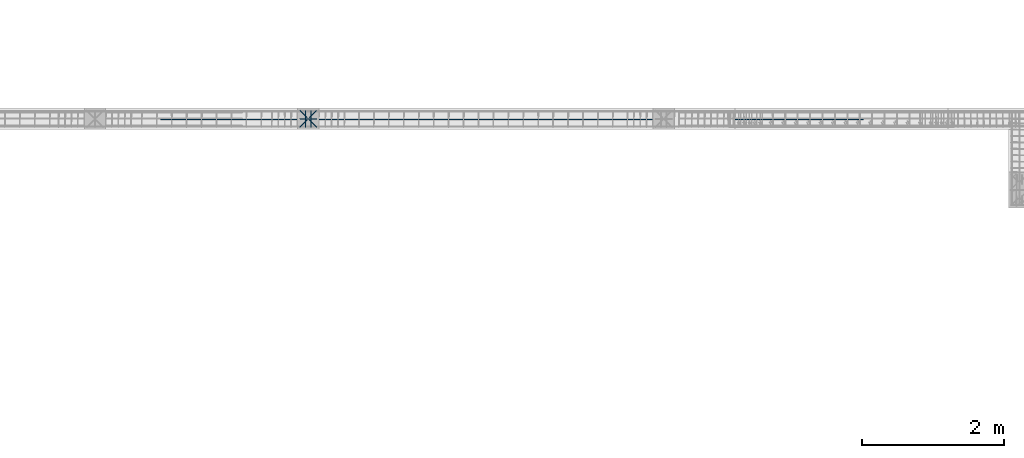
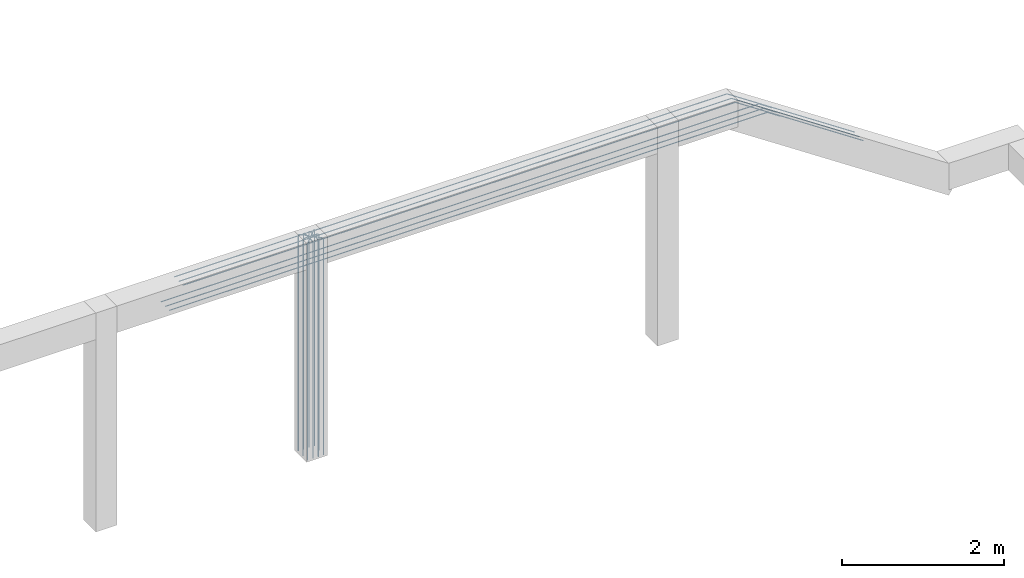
# One storey, part 13 of 24: 3 reinforcing bars.
"""IFC2X3 building model written with IfcOpenShell, lengths in metres."""

from ifc_helpers import new_model, entity, si_unit, direction, frame, origin, place, context, subcontext, project, spatial, shape, source, transform, mapped, element, save


model = new_model("IFC2X3")

# Units and contexts
model_context = context("Model", 3, precision=0.0, world=origin(), true_north=direction((0.0, 1.0)))
plan_context = context("Plan", 3, precision=0.0, world=origin(), true_north=direction((0.0, 1.0)))
body_context = subcontext(model_context, "Body", "Model", "MODEL_VIEW", scale=1.0)
ifc_project = project(units=[si_unit("LENGTHUNIT", "METRE"), si_unit("AREAUNIT", "SQUARE_METRE"), si_unit("VOLUMEUNIT", "CUBIC_METRE"), si_unit("PLANEANGLEUNIT", "RADIAN"), si_unit("THERMODYNAMICTEMPERATUREUNIT", "DEGREE_CELSIUS"), si_unit("FORCEUNIT", "NEWTON"), si_unit("MASSUNIT", "GRAM", prefix="KILO")], contexts=[model_context, plan_context])

# Site, building, storey
placement = place(None, origin())
site = spatial("IfcSite", under=ifc_project, at=placement, Name="Default Site", CompositionType="ELEMENT")
building = spatial("IfcBuilding", under=site, at=placement, Name="Default Building", CompositionType="ELEMENT")
storey_placement = place(placement, frame((0.0, 0.0, 3.3), z_axis=(1.0, 0.0, 0.0), x_axis=(0.0, 0.0, 1.0)))
storey = spatial("IfcBuildingStorey", under=building, at=storey_placement, Name="Piano 2", CompositionType="ELEMENT", Elevation=3.3)

# Reinforcing bars
shared_shape_1 = source(origin(), body_context, None, "AdvancedSweptSolid", [
    entity("IfcSweptDiskSolid", entity("IfcCompositeCurve", [entity("IfcCompositeCurveSegment", "CONTINUOUS", True, entity("IfcPolyline", [entity("IfcCartesianPoint", [0.0, 0.0, 0.0]), entity("IfcCartesianPoint", [0.385, 0.0, 0.0]), entity("IfcCartesianPoint", [1.885, 0.0, 0.0]), entity("IfcCartesianPoint", [6.885, 0.0, 0.0]), entity("IfcCartesianPoint", [7.862897, 0.0, 0.0]), entity("IfcCartesianPoint", [7.878429, 0.0, -0.004703]), entity("IfcCartesianPoint", [9.369066, 0.0, -0.99846]), entity("IfcCartesianPoint", [9.689405, 0.0, -1.21202])]))], False), 0.007, 0.0, 0.0),
])
shared_shape_2 = source(origin(), body_context, None, "MappedRepresentation", [mapped(shared_shape_1, transform((5.115, 4.895, 3.248)))])
shared_shape_3 = source(origin(), body_context, None, "AdvancedSweptSolid", [
    entity("IfcSweptDiskSolid", entity("IfcCompositeCurve", [entity("IfcCompositeCurveSegment", "CONTINUOUS", True, entity("IfcPolyline", [entity("IfcCartesianPoint", [0.0, 0.0, 0.0]), entity("IfcCartesianPoint", [0.385, 0.0, 0.0]), entity("IfcCartesianPoint", [1.885, 0.0, 0.0]), entity("IfcCartesianPoint", [6.885, 0.0, 0.0]), entity("IfcCartesianPoint", [7.862897, 0.0, 0.0]), entity("IfcCartesianPoint", [7.878429, 0.0, -0.004703]), entity("IfcCartesianPoint", [9.369066, 0.0, -0.99846]), entity("IfcCartesianPoint", [9.689405, 0.0, -1.21202])]))], False), 0.007, 0.0, 0.0),
])
shared_shape_4 = source(origin(), body_context, None, "MappedRepresentation", [mapped(shared_shape_3, transform((5.115, 4.993, 3.248)))])
shared_shape_5 = source(origin(), body_context, None, "AdvancedSweptSolid", [
    entity("IfcSweptDiskSolid", entity("IfcCompositeCurve", [entity("IfcCompositeCurveSegment", "CONTINUOUS", True, entity("IfcPolyline", [entity("IfcCartesianPoint", [0.0, 0.0, 0.0]), entity("IfcCartesianPoint", [0.385, 0.0, 0.0]), entity("IfcCartesianPoint", [1.885, 0.0, 0.0]), entity("IfcCartesianPoint", [6.885, 0.0, 0.0]), entity("IfcCartesianPoint", [7.862897, 0.0, 0.0]), entity("IfcCartesianPoint", [7.878429, 0.0, -0.004703]), entity("IfcCartesianPoint", [9.369066, 0.0, -0.99846]), entity("IfcCartesianPoint", [9.689405, 0.0, -1.21202])]))], False), 0.007, 0.0, 0.0),
])
shared_shape_6 = source(origin(), body_context, None, "MappedRepresentation", [mapped(shared_shape_5, transform((5.115, 5.105, 3.248)))])
element("IfcReinforcingBar", 1, at=placement, inside=storey, Name="Arm Superiore; Trave:7 [Piano:2]", BarLength=30.168398, BarRole="MAIN", BarSurface="TEXTURED", NominalDiameter=0.014, shapes=[
    shape(body_context, None, "MappedRepresentation", [mapped(shared_shape_2, transform((0.0, 0.0, 0.0))), mapped(shared_shape_4, transform((0.0, 0.0, 0.0))), mapped(shared_shape_6, transform((0.0, 0.0, 0.0)))]),
])
shared_shape_7 = source(origin(), body_context, None, "AdvancedSweptSolid", [
    entity("IfcSweptDiskSolid", entity("IfcCompositeCurve", [entity("IfcCompositeCurveSegment", "CONTINUOUS", True, entity("IfcPolyline", [entity("IfcCartesianPoint", [0.0, 0.0, 0.0]), entity("IfcCartesianPoint", [0.5775, 0.0, 0.0]), entity("IfcCartesianPoint", [2.0775, 0.0, 0.0]), entity("IfcCartesianPoint", [7.0775, 0.0, 0.0]), entity("IfcCartesianPoint", [7.970015, 0.0, 0.0]), entity("IfcCartesianPoint", [8.509581, 0.0, 0.0]), entity("IfcCartesianPoint", [8.525112, 0.0, -0.004703]), entity("IfcCartesianPoint", [8.702737, 0.0, -0.123119])]))], False), 0.007, 0.0, 0.0),
])
shared_shape_8 = source(origin(), body_context, None, "MappedRepresentation", [mapped(shared_shape_7, transform((4.9225, 4.895, 2.938)))])
shared_shape_9 = source(origin(), body_context, None, "AdvancedSweptSolid", [
    entity("IfcSweptDiskSolid", entity("IfcCompositeCurve", [entity("IfcCompositeCurveSegment", "CONTINUOUS", True, entity("IfcPolyline", [entity("IfcCartesianPoint", [0.0, 0.0, 0.0]), entity("IfcCartesianPoint", [0.5775, 0.0, 0.0]), entity("IfcCartesianPoint", [2.0775, 0.0, 0.0]), entity("IfcCartesianPoint", [7.0775, 0.0, 0.0]), entity("IfcCartesianPoint", [7.970015, 0.0, 0.0]), entity("IfcCartesianPoint", [8.509581, 0.0, 0.0]), entity("IfcCartesianPoint", [8.525112, 0.0, -0.004703]), entity("IfcCartesianPoint", [8.702737, 0.0, -0.123119])]))], False), 0.007, 0.0, 0.0),
])
shared_shape_10 = source(origin(), body_context, None, "MappedRepresentation", [mapped(shared_shape_9, transform((4.9225, 4.993, 2.938)))])
shared_shape_11 = source(origin(), body_context, None, "AdvancedSweptSolid", [
    entity("IfcSweptDiskSolid", entity("IfcCompositeCurve", [entity("IfcCompositeCurveSegment", "CONTINUOUS", True, entity("IfcPolyline", [entity("IfcCartesianPoint", [0.0, 0.0, 0.0]), entity("IfcCartesianPoint", [0.5775, 0.0, 0.0]), entity("IfcCartesianPoint", [2.0775, 0.0, 0.0]), entity("IfcCartesianPoint", [7.0775, 0.0, 0.0]), entity("IfcCartesianPoint", [7.970015, 0.0, 0.0]), entity("IfcCartesianPoint", [8.509581, 0.0, 0.0]), entity("IfcCartesianPoint", [8.525112, 0.0, -0.004703]), entity("IfcCartesianPoint", [8.702737, 0.0, -0.123119])]))], False), 0.007, 0.0, 0.0),
])
shared_shape_12 = source(origin(), body_context, None, "MappedRepresentation", [mapped(shared_shape_11, transform((4.9225, 5.105, 2.938)))])
element("IfcReinforcingBar", 2, at=placement, inside=storey, Name="Arm Inferiore; Trave:7 [Piano:2]", BarLength=26.219316, BarRole="MAIN", BarSurface="TEXTURED", NominalDiameter=0.014, shapes=[
    shape(body_context, None, "MappedRepresentation", [mapped(shared_shape_8, transform((0.0, 0.0, 0.0))), mapped(shared_shape_10, transform((0.0, 0.0, 0.0))), mapped(shared_shape_12, transform((0.0, 0.0, 0.0)))]),
])
shared_shape_13 = source(origin(), body_context, None, "AdvancedSweptSolid", [
    entity("IfcSweptDiskSolid", entity("IfcCompositeCurve", [entity("IfcCompositeCurveSegment", "CONTINUOUS", True, entity("IfcPolyline", [entity("IfcCartesianPoint", [0.0, 0.0, 0.0]), entity("IfcCartesianPoint", [0.0, 0.0, 3.237]), entity("IfcCartesianPoint", [0.002653, 0.002653, 3.251]), entity("IfcCartesianPoint", [0.009899, 0.009899, 3.261249]), entity("IfcCartesianPoint", [0.019799, 0.019799, 3.265]), entity("IfcCartesianPoint", [0.098995, 0.098995, 3.265])]))], False), 0.007, 0.0, 0.0),
])
shared_shape_14 = source(origin(), body_context, None, "MappedRepresentation", [mapped(shared_shape_13, transform((6.885, 4.885, 0.0)))])
shared_shape_15 = source(origin(), body_context, None, "AdvancedSweptSolid", [
    entity("IfcSweptDiskSolid", entity("IfcCompositeCurve", [entity("IfcCompositeCurveSegment", "CONTINUOUS", True, entity("IfcPolyline", [entity("IfcCartesianPoint", [0.0, 0.0, 0.0]), entity("IfcCartesianPoint", [0.0, 0.0, 3.237]), entity("IfcCartesianPoint", [-0.002653, 0.002653, 3.251]), entity("IfcCartesianPoint", [-0.009899, 0.009899, 3.261249]), entity("IfcCartesianPoint", [-0.019799, 0.019799, 3.265]), entity("IfcCartesianPoint", [-0.098995, 0.098995, 3.265])]))], False), 0.007, 0.0, 0.0),
])
shared_shape_16 = source(origin(), body_context, None, "MappedRepresentation", [mapped(shared_shape_15, transform((7.115, 4.885, 0.0)))])
shared_shape_17 = source(origin(), body_context, None, "AdvancedSweptSolid", [
    entity("IfcSweptDiskSolid", entity("IfcCompositeCurve", [entity("IfcCompositeCurveSegment", "CONTINUOUS", True, entity("IfcPolyline", [entity("IfcCartesianPoint", [0.0, 0.0, 0.0]), entity("IfcCartesianPoint", [0.0, 0.0, 3.237]), entity("IfcCartesianPoint", [-0.002653, -0.002653, 3.251]), entity("IfcCartesianPoint", [-0.009899, -0.009899, 3.261249]), entity("IfcCartesianPoint", [-0.019799, -0.019799, 3.265]), entity("IfcCartesianPoint", [-0.098995, -0.098995, 3.265])]))], False), 0.007, 0.0, 0.0),
])
shared_shape_18 = source(origin(), body_context, None, "MappedRepresentation", [mapped(shared_shape_17, transform((7.115, 5.115, 0.0)))])
shared_shape_19 = source(origin(), body_context, None, "AdvancedSweptSolid", [
    entity("IfcSweptDiskSolid", entity("IfcCompositeCurve", [entity("IfcCompositeCurveSegment", "CONTINUOUS", True, entity("IfcPolyline", [entity("IfcCartesianPoint", [0.0, 0.0, 0.0]), entity("IfcCartesianPoint", [0.0, 0.0, 3.237]), entity("IfcCartesianPoint", [0.002653, -0.002653, 3.251]), entity("IfcCartesianPoint", [0.009899, -0.009899, 3.261249]), entity("IfcCartesianPoint", [0.019799, -0.019799, 3.265]), entity("IfcCartesianPoint", [0.098995, -0.098995, 3.265])]))], False), 0.007, 0.0, 0.0),
])
shared_shape_20 = source(origin(), body_context, None, "MappedRepresentation", [mapped(shared_shape_19, transform((6.885, 5.115, 0.0)))])
shared_shape_21 = source(origin(), body_context, None, "AdvancedSweptSolid", [
    entity("IfcSweptDiskSolid", entity("IfcCompositeCurve", [entity("IfcCompositeCurveSegment", "CONTINUOUS", True, entity("IfcPolyline", [entity("IfcCartesianPoint", [0.0, 0.0, 0.0]), entity("IfcCartesianPoint", [0.0, 0.0, 3.237]), entity("IfcCartesianPoint", [0.0, 0.003751, 3.251]), entity("IfcCartesianPoint", [0.0, 0.014, 3.261249]), entity("IfcCartesianPoint", [0.0, 0.028, 3.265]), entity("IfcCartesianPoint", [0.0, 0.14, 3.265])]))], False), 0.007, 0.0, 0.0),
])
shared_shape_22 = source(origin(), body_context, None, "MappedRepresentation", [mapped(shared_shape_21, transform((6.961667, 4.885, 0.0)))])
shared_shape_23 = source(origin(), body_context, None, "AdvancedSweptSolid", [
    entity("IfcSweptDiskSolid", entity("IfcCompositeCurve", [entity("IfcCompositeCurveSegment", "CONTINUOUS", True, entity("IfcPolyline", [entity("IfcCartesianPoint", [0.0, 0.0, 0.0]), entity("IfcCartesianPoint", [0.0, 0.0, 3.237]), entity("IfcCartesianPoint", [0.0, 0.003751, 3.251]), entity("IfcCartesianPoint", [0.0, 0.014, 3.261249]), entity("IfcCartesianPoint", [0.0, 0.028, 3.265]), entity("IfcCartesianPoint", [0.0, 0.14, 3.265])]))], False), 0.007, 0.0, 0.0),
])
shared_shape_24 = source(origin(), body_context, None, "MappedRepresentation", [mapped(shared_shape_23, transform((7.038333, 4.885, 0.0)))])
shared_shape_25 = source(origin(), body_context, None, "AdvancedSweptSolid", [
    entity("IfcSweptDiskSolid", entity("IfcCompositeCurve", [entity("IfcCompositeCurveSegment", "CONTINUOUS", True, entity("IfcPolyline", [entity("IfcCartesianPoint", [0.0, 0.0, 0.0]), entity("IfcCartesianPoint", [0.0, 0.0, 3.237]), entity("IfcCartesianPoint", [-0.003751, 0.0, 3.251]), entity("IfcCartesianPoint", [-0.014, 0.0, 3.261249]), entity("IfcCartesianPoint", [-0.028, 0.0, 3.265]), entity("IfcCartesianPoint", [-0.14, 0.0, 3.265])]))], False), 0.007, 0.0, 0.0),
])
shared_shape_26 = source(origin(), body_context, None, "MappedRepresentation", [mapped(shared_shape_25, transform((7.115, 5.0, 0.0)))])
shared_shape_27 = source(origin(), body_context, None, "AdvancedSweptSolid", [
    entity("IfcSweptDiskSolid", entity("IfcCompositeCurve", [entity("IfcCompositeCurveSegment", "CONTINUOUS", True, entity("IfcPolyline", [entity("IfcCartesianPoint", [0.0, 0.0, 0.0]), entity("IfcCartesianPoint", [0.0, 0.0, 3.237]), entity("IfcCartesianPoint", [0.0, -0.003751, 3.251]), entity("IfcCartesianPoint", [0.0, -0.014, 3.261249]), entity("IfcCartesianPoint", [0.0, -0.028, 3.265]), entity("IfcCartesianPoint", [0.0, -0.14, 3.265])]))], False), 0.007, 0.0, 0.0),
])
shared_shape_28 = source(origin(), body_context, None, "MappedRepresentation", [mapped(shared_shape_27, transform((7.038333, 5.115, 0.0)))])
shared_shape_29 = source(origin(), body_context, None, "AdvancedSweptSolid", [
    entity("IfcSweptDiskSolid", entity("IfcCompositeCurve", [entity("IfcCompositeCurveSegment", "CONTINUOUS", True, entity("IfcPolyline", [entity("IfcCartesianPoint", [0.0, 0.0, 0.0]), entity("IfcCartesianPoint", [0.0, 0.0, 3.237]), entity("IfcCartesianPoint", [0.0, -0.003751, 3.251]), entity("IfcCartesianPoint", [0.0, -0.014, 3.261249]), entity("IfcCartesianPoint", [0.0, -0.028, 3.265]), entity("IfcCartesianPoint", [0.0, -0.14, 3.265])]))], False), 0.007, 0.0, 0.0),
])
shared_shape_30 = source(origin(), body_context, None, "MappedRepresentation", [mapped(shared_shape_29, transform((6.961667, 5.115, 0.0)))])
shared_shape_31 = source(origin(), body_context, None, "AdvancedSweptSolid", [
    entity("IfcSweptDiskSolid", entity("IfcCompositeCurve", [entity("IfcCompositeCurveSegment", "CONTINUOUS", True, entity("IfcPolyline", [entity("IfcCartesianPoint", [0.0, 0.0, 0.0]), entity("IfcCartesianPoint", [0.0, 0.0, 3.237]), entity("IfcCartesianPoint", [0.003751, 0.0, 3.251]), entity("IfcCartesianPoint", [0.014, 0.0, 3.261249]), entity("IfcCartesianPoint", [0.028, 0.0, 3.265]), entity("IfcCartesianPoint", [0.14, 0.0, 3.265])]))], False), 0.007, 0.0, 0.0),
])
shared_shape_32 = source(origin(), body_context, None, "MappedRepresentation", [mapped(shared_shape_31, transform((6.885, 5.0, 0.0)))])
element("IfcReinforcingBar", 3, at=placement, inside=storey, Name="Arm Principale; Pilastro:13 [Piano:2]", BarLength=34.05, BarRole="MAIN", BarSurface="TEXTURED", NominalDiameter=0.014, shapes=[
    shape(body_context, None, "MappedRepresentation", [mapped(shared_shape_14, transform((0.0, 0.0, 0.0))), mapped(shared_shape_16, transform((0.0, 0.0, 0.0))), mapped(shared_shape_18, transform((0.0, 0.0, 0.0))), mapped(shared_shape_20, transform((0.0, 0.0, 0.0))), mapped(shared_shape_22, transform((0.0, 0.0, 0.0))), mapped(shared_shape_24, transform((0.0, 0.0, 0.0))), mapped(shared_shape_26, transform((0.0, 0.0, 0.0))), mapped(shared_shape_28, transform((0.0, 0.0, 0.0))), mapped(shared_shape_30, transform((0.0, 0.0, 0.0))), mapped(shared_shape_32, transform((0.0, 0.0, 0.0)))]),
])

save(model, "model.ifc")
